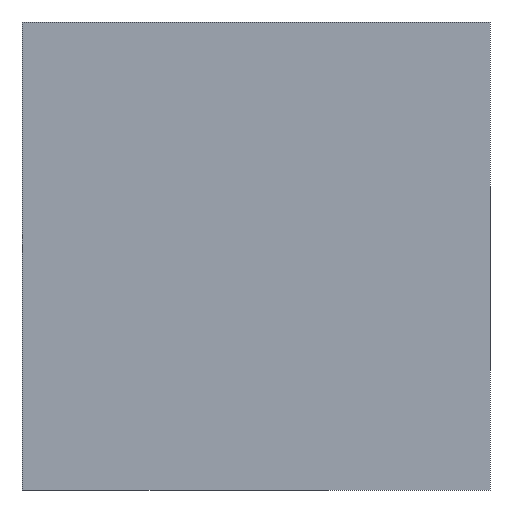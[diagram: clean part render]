
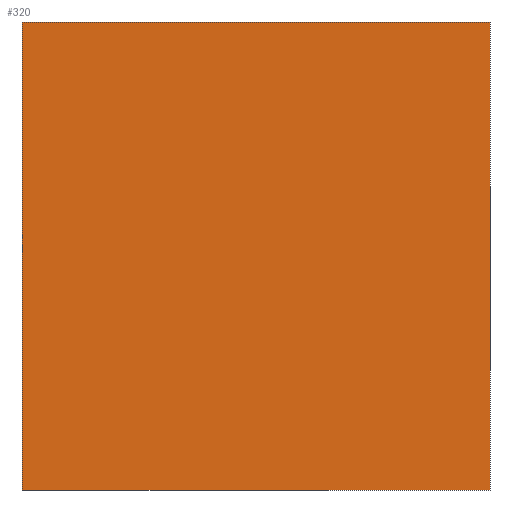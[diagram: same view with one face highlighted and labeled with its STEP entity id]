
A CAD part, left-side view. The second image highlights one B-rep face of the part: STEP entity #320.
In plain terms, the highlighted planar face has unit normal (-1, 0, 0).
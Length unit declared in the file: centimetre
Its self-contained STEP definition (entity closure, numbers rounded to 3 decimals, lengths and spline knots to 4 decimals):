
#5 = DIRECTION ( 'NONE',  ( 0., 0., -1. ) ) ;
#10 = ORIENTED_EDGE ( 'NONE', *, *, #110, .F. ) ;
#12 = ORIENTED_EDGE ( 'NONE', *, *, #27, .T. ) ;
#13 = AXIS2_PLACEMENT_3D ( 'NONE', #421, #159, #40 ) ;
#27 = EDGE_CURVE ( 'NONE', #122, #217, #95, .T. ) ;
#29 = LINE ( 'NONE', #194, #534 ) ;
#36 = ORIENTED_EDGE ( 'NONE', *, *, #274, .T. ) ;
#38 = CARTESIAN_POINT ( 'NONE',  ( 0., 0., 0. ) ) ;
#40 = DIRECTION ( 'NONE',  ( 0., 0., -1. ) ) ;
#70 = VECTOR ( 'NONE', #5, 100. ) ;
#80 = CARTESIAN_POINT ( 'NONE',  ( 0., 1000., 0. ) ) ;
#89 = CARTESIAN_POINT ( 'NONE',  ( 0., 1000., 1000. ) ) ;
#95 = LINE ( 'NONE', #89, #542 ) ;
#110 = EDGE_CURVE ( 'NONE', #410, #535, #341, .T. ) ;
#122 = VERTEX_POINT ( 'NONE', #352 ) ;
#159 = DIRECTION ( 'NONE',  ( 1., 0., 0. ) ) ;
#194 = CARTESIAN_POINT ( 'NONE',  ( 0., 1000., 1000. ) ) ;
#203 = LINE ( 'NONE', #333, #277 ) ;
#217 = VERTEX_POINT ( 'NONE', #80 ) ;
#251 = PLANE ( 'NONE',  #13 ) ;
#274 = EDGE_CURVE ( 'NONE', #217, #535, #203, .T. ) ;
#277 = VECTOR ( 'NONE', #291, 100. ) ;
#287 = FACE_OUTER_BOUND ( 'NONE', #536, .T. ) ;
#291 = DIRECTION ( 'NONE',  ( 0., -1., 0. ) ) ;
#305 = DIRECTION ( 'NONE',  ( 0., 0., -1. ) ) ;
#320 = ADVANCED_FACE ( 'NONE', ( #287 ), #251, .F. ) ;
#333 = CARTESIAN_POINT ( 'NONE',  ( 0., 1000., 0. ) ) ;
#341 = LINE ( 'NONE', #475, #70 ) ;
#343 = EDGE_CURVE ( 'NONE', #122, #410, #29, .T. ) ;
#344 = CARTESIAN_POINT ( 'NONE',  ( 0., 0., 1000. ) ) ;
#350 = ORIENTED_EDGE ( 'NONE', *, *, #343, .F. ) ;
#352 = CARTESIAN_POINT ( 'NONE',  ( 0., 1000., 1000. ) ) ;
#381 = DIRECTION ( 'NONE',  ( 0., -1., 0. ) ) ;
#410 = VERTEX_POINT ( 'NONE', #344 ) ;
#421 = CARTESIAN_POINT ( 'NONE',  ( 0., 1000., 1000. ) ) ;
#475 = CARTESIAN_POINT ( 'NONE',  ( 0., 0., 1000. ) ) ;
#534 = VECTOR ( 'NONE', #381, 100. ) ;
#535 = VERTEX_POINT ( 'NONE', #38 ) ;
#536 = EDGE_LOOP ( 'NONE', ( #36, #10, #350, #12 ) ) ;
#542 = VECTOR ( 'NONE', #305, 100. ) ;
